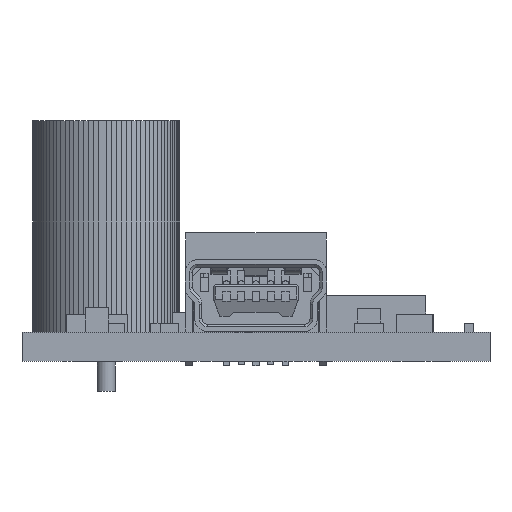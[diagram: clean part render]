
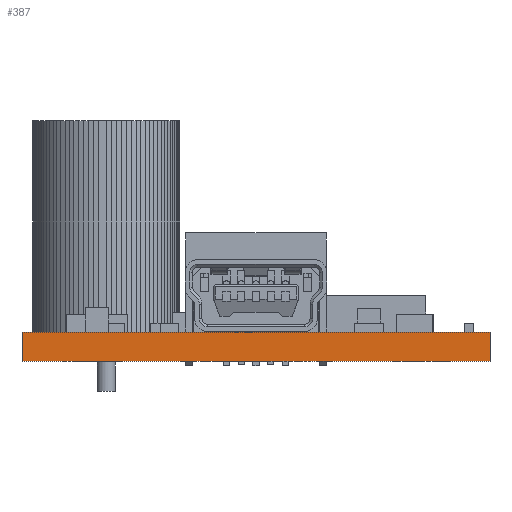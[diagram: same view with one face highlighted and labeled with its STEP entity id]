
A CAD part, front view. The second image highlights one B-rep face of the part: STEP entity #387.
In plain terms, the highlighted planar face has unit normal (0, -1, 0).
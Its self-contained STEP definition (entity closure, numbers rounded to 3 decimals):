
#124 = EDGE_CURVE('',#125,#127,#129,.T.);
#125 = VERTEX_POINT('',#126);
#126 = CARTESIAN_POINT('',(0.,0.,0.));
#127 = VERTEX_POINT('',#128);
#128 = CARTESIAN_POINT('',(0.,0.,1.575));
#129 = SURFACE_CURVE('',#130,(#134,#146),.PCURVE_S1.);
#130 = LINE('',#131,#132);
#131 = CARTESIAN_POINT('',(0.,0.,0.));
#132 = VECTOR('',#133,1.);
#133 = DIRECTION('',(0.,0.,1.));
#134 = PCURVE('',#135,#140);
#135 = PLANE('',#136);
#136 = AXIS2_PLACEMENT_3D('',#137,#138,#139);
#137 = CARTESIAN_POINT('',(0.,0.,0.));
#138 = DIRECTION('',(-1.,0.,0.));
#139 = DIRECTION('',(0.,1.,0.));
#140 = DEFINITIONAL_REPRESENTATION('',(#141),#145);
#141 = LINE('',#142,#143);
#142 = CARTESIAN_POINT('',(0.,0.));
#143 = VECTOR('',#144,1.);
#144 = DIRECTION('',(0.,-1.));
#145 = ( GEOMETRIC_REPRESENTATION_CONTEXT(2) 
PARAMETRIC_REPRESENTATION_CONTEXT() REPRESENTATION_CONTEXT('2D SPACE',''
  ) );
#146 = PCURVE('',#147,#152);
#147 = PLANE('',#148);
#148 = AXIS2_PLACEMENT_3D('',#149,#150,#151);
#149 = CARTESIAN_POINT('',(25.4,0.,0.));
#150 = DIRECTION('',(0.,-1.,0.));
#151 = DIRECTION('',(-1.,0.,0.));
#152 = DEFINITIONAL_REPRESENTATION('',(#153),#157);
#153 = LINE('',#154,#155);
#154 = CARTESIAN_POINT('',(25.4,0.));
#155 = VECTOR('',#156,1.);
#156 = DIRECTION('',(0.,-1.));
#157 = ( GEOMETRIC_REPRESENTATION_CONTEXT(2) 
PARAMETRIC_REPRESENTATION_CONTEXT() REPRESENTATION_CONTEXT('2D SPACE',''
  ) );
#175 = PLANE('',#176);
#176 = AXIS2_PLACEMENT_3D('',#177,#178,#179);
#177 = CARTESIAN_POINT('',(0.,0.,1.575));
#178 = DIRECTION('',(0.,0.,1.));
#179 = DIRECTION('',(1.,0.,0.));
#229 = PLANE('',#230);
#230 = AXIS2_PLACEMENT_3D('',#231,#232,#233);
#231 = CARTESIAN_POINT('',(0.,0.,0.));
#232 = DIRECTION('',(0.,0.,1.));
#233 = DIRECTION('',(1.,0.,0.));
#284 = PLANE('',#285);
#285 = AXIS2_PLACEMENT_3D('',#286,#287,#288);
#286 = CARTESIAN_POINT('',(25.4,40.64,0.));
#287 = DIRECTION('',(1.,0.,0.));
#288 = DIRECTION('',(0.,-1.,0.));
#322 = VERTEX_POINT('',#323);
#323 = CARTESIAN_POINT('',(25.4,0.,1.575));
#344 = EDGE_CURVE('',#345,#322,#347,.T.);
#345 = VERTEX_POINT('',#346);
#346 = CARTESIAN_POINT('',(25.4,0.,0.));
#347 = SURFACE_CURVE('',#348,(#352,#359),.PCURVE_S1.);
#348 = LINE('',#349,#350);
#349 = CARTESIAN_POINT('',(25.4,0.,0.));
#350 = VECTOR('',#351,1.);
#351 = DIRECTION('',(0.,0.,1.));
#352 = PCURVE('',#284,#353);
#353 = DEFINITIONAL_REPRESENTATION('',(#354),#358);
#354 = LINE('',#355,#356);
#355 = CARTESIAN_POINT('',(40.64,0.));
#356 = VECTOR('',#357,1.);
#357 = DIRECTION('',(0.,-1.));
#358 = ( GEOMETRIC_REPRESENTATION_CONTEXT(2) 
PARAMETRIC_REPRESENTATION_CONTEXT() REPRESENTATION_CONTEXT('2D SPACE',''
  ) );
#359 = PCURVE('',#147,#360);
#360 = DEFINITIONAL_REPRESENTATION('',(#361),#365);
#361 = LINE('',#362,#363);
#362 = CARTESIAN_POINT('',(0.,0.));
#363 = VECTOR('',#364,1.);
#364 = DIRECTION('',(0.,-1.));
#365 = ( GEOMETRIC_REPRESENTATION_CONTEXT(2) 
PARAMETRIC_REPRESENTATION_CONTEXT() REPRESENTATION_CONTEXT('2D SPACE',''
  ) );
#387 = ADVANCED_FACE('',(#388),#147,.T.);
#388 = FACE_BOUND('',#389,.T.);
#389 = EDGE_LOOP('',(#390,#391,#412,#413));
#390 = ORIENTED_EDGE('',*,*,#344,.T.);
#391 = ORIENTED_EDGE('',*,*,#392,.T.);
#392 = EDGE_CURVE('',#322,#127,#393,.T.);
#393 = SURFACE_CURVE('',#394,(#398,#405),.PCURVE_S1.);
#394 = LINE('',#395,#396);
#395 = CARTESIAN_POINT('',(25.4,0.,1.575));
#396 = VECTOR('',#397,1.);
#397 = DIRECTION('',(-1.,0.,0.));
#398 = PCURVE('',#147,#399);
#399 = DEFINITIONAL_REPRESENTATION('',(#400),#404);
#400 = LINE('',#401,#402);
#401 = CARTESIAN_POINT('',(0.,-1.575));
#402 = VECTOR('',#403,1.);
#403 = DIRECTION('',(1.,0.));
#404 = ( GEOMETRIC_REPRESENTATION_CONTEXT(2) 
PARAMETRIC_REPRESENTATION_CONTEXT() REPRESENTATION_CONTEXT('2D SPACE',''
  ) );
#405 = PCURVE('',#175,#406);
#406 = DEFINITIONAL_REPRESENTATION('',(#407),#411);
#407 = LINE('',#408,#409);
#408 = CARTESIAN_POINT('',(25.4,0.));
#409 = VECTOR('',#410,1.);
#410 = DIRECTION('',(-1.,0.));
#411 = ( GEOMETRIC_REPRESENTATION_CONTEXT(2) 
PARAMETRIC_REPRESENTATION_CONTEXT() REPRESENTATION_CONTEXT('2D SPACE',''
  ) );
#412 = ORIENTED_EDGE('',*,*,#124,.F.);
#413 = ORIENTED_EDGE('',*,*,#414,.F.);
#414 = EDGE_CURVE('',#345,#125,#415,.T.);
#415 = SURFACE_CURVE('',#416,(#420,#427),.PCURVE_S1.);
#416 = LINE('',#417,#418);
#417 = CARTESIAN_POINT('',(25.4,0.,0.));
#418 = VECTOR('',#419,1.);
#419 = DIRECTION('',(-1.,0.,0.));
#420 = PCURVE('',#147,#421);
#421 = DEFINITIONAL_REPRESENTATION('',(#422),#426);
#422 = LINE('',#423,#424);
#423 = CARTESIAN_POINT('',(0.,0.));
#424 = VECTOR('',#425,1.);
#425 = DIRECTION('',(1.,0.));
#426 = ( GEOMETRIC_REPRESENTATION_CONTEXT(2) 
PARAMETRIC_REPRESENTATION_CONTEXT() REPRESENTATION_CONTEXT('2D SPACE',''
  ) );
#427 = PCURVE('',#229,#428);
#428 = DEFINITIONAL_REPRESENTATION('',(#429),#433);
#429 = LINE('',#430,#431);
#430 = CARTESIAN_POINT('',(25.4,0.));
#431 = VECTOR('',#432,1.);
#432 = DIRECTION('',(-1.,0.));
#433 = ( GEOMETRIC_REPRESENTATION_CONTEXT(2) 
PARAMETRIC_REPRESENTATION_CONTEXT() REPRESENTATION_CONTEXT('2D SPACE',''
  ) );
